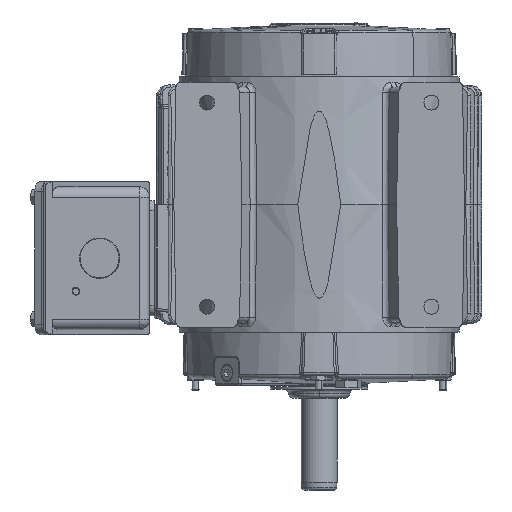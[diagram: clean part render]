
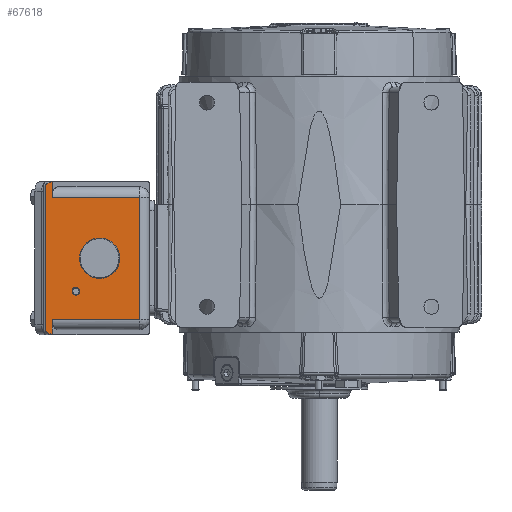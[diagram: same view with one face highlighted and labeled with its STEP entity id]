
A CAD part, front view. The second image highlights one B-rep face of the part: STEP entity #67618.
In plain terms, the highlighted planar face has unit normal (0, -1, 0).
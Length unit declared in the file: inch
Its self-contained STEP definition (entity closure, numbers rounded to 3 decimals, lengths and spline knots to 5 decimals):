
#1989 = FACE_OUTER_BOUND ( 'NONE', #73003, .T. ) ;
#2476 = CARTESIAN_POINT ( 'NONE',  ( -5.865, -1.85388, -6.23288 ) ) ;
#3268 = AXIS2_PLACEMENT_3D ( 'NONE', #7163, #75110, #84970 ) ;
#3408 = CARTESIAN_POINT ( 'NONE',  ( -6.54459, -1.85388, -7.28678 ) ) ;
#4035 = DIRECTION ( 'NONE',  ( 0., -1., 0. ) ) ;
#4552 = VERTEX_POINT ( 'NONE', #58055 ) ;
#4694 = CARTESIAN_POINT ( 'NONE',  ( -4.4, -1.85388, -3.67288 ) ) ;
#7163 = CARTESIAN_POINT ( 'NONE',  ( -5.96, -1.85388, -6.23288 ) ) ;
#7860 = VERTEX_POINT ( 'NONE', #108354 ) ;
#7945 = EDGE_CURVE ( 'NONE', #49719, #55185, #82361, .T. ) ;
#9346 = ORIENTED_EDGE ( 'NONE', *, *, #28936, .T. ) ;
#9375 = PLANE ( 'NONE',  #35410 ) ;
#11904 = EDGE_CURVE ( 'NONE', #50488, #49719, #78286, .T. ) ;
#14749 =( BOUNDED_CURVE ( )  B_SPLINE_CURVE ( 3, ( #46942, #66827, #27372, #27781 ),
 .UNSPECIFIED., .F., .F. ) 
 B_SPLINE_CURVE_WITH_KNOTS ( ( 4, 4 ),
 ( 5.03268, 6.28319 ),
 .UNSPECIFIED. ) 
 CURVE ( )  GEOMETRIC_REPRESENTATION_ITEM ( )  RATIONAL_B_SPLINE_CURVE ( ( 1., 0.874, 0.874, 1. ) ) 
 REPRESENTATION_ITEM ( '' )  );
#14778 = DIRECTION ( 'NONE',  ( 0., 0., -1. ) ) ;
#16587 = VERTEX_POINT ( 'NONE', #38832 ) ;
#17211 = CARTESIAN_POINT ( 'NONE',  ( -5.96, -1.85388, -6.23288 ) ) ;
#18318 =( BOUNDED_CURVE ( )  B_SPLINE_CURVE ( 3, ( #99125, #108870, #80372, #3408 ),
 .UNSPECIFIED., .F., .F. ) 
 B_SPLINE_CURVE_WITH_KNOTS ( ( 4, 4 ),
 ( 0., 1.25051 ),
 .UNSPECIFIED. ) 
 CURVE ( )  GEOMETRIC_REPRESENTATION_ITEM ( )  RATIONAL_B_SPLINE_CURVE ( ( 1., 0.874, 0.874, 1. ) ) 
 REPRESENTATION_ITEM ( '' )  );
#18762 = FACE_BOUND ( 'NONE', #70262, .T. ) ;
#20700 = ORIENTED_EDGE ( 'NONE', *, *, #37056, .F. ) ;
#21185 = DIRECTION ( 'NONE',  ( 0., 0., 1. ) ) ;
#23316 = LINE ( 'NONE', #30068, #50740 ) ;
#24117 = CARTESIAN_POINT ( 'NONE',  ( -6.055, -1.85388, -6.23288 ) ) ;
#24407 = ORIENTED_EDGE ( 'NONE', *, *, #26063, .T. ) ;
#26063 = EDGE_CURVE ( 'NONE', #85828, #16587, #71389, .T. ) ;
#26268 = CARTESIAN_POINT ( 'NONE',  ( -4.4, -1.85388, -6.92288 ) ) ;
#27372 = CARTESIAN_POINT ( 'NONE',  ( -6.70903, -1.85388, -3.6093 ) ) ;
#27781 = CARTESIAN_POINT ( 'NONE',  ( -6.70903, -1.85388, -3.66288 ) ) ;
#28713 = VERTEX_POINT ( 'NONE', #122408 ) ;
#28747 = EDGE_CURVE ( 'NONE', #7860, #28713, #30534, .T. ) ;
#28936 = EDGE_CURVE ( 'NONE', #29719, #4552, #68519, .T. ) ;
#29299 = DIRECTION ( 'NONE',  ( 0., 1., 0. ) ) ;
#29589 = LINE ( 'NONE', #4694, #47909 ) ;
#29719 = VERTEX_POINT ( 'NONE', #113989 ) ;
#30068 = CARTESIAN_POINT ( 'NONE',  ( -6.54459, -1.85388, -3.66288 ) ) ;
#30132 = CIRCLE ( 'NONE', #3268, 0.095 ) ;
#30534 = CIRCLE ( 'NONE', #62539, 0.49444 ) ;
#31658 = DIRECTION ( 'NONE',  ( 1., 0., 0. ) ) ;
#34196 = CARTESIAN_POINT ( 'NONE',  ( -6.54459, -1.85388, -6.92288 ) ) ;
#34767 = DIRECTION ( 'NONE',  ( 1., 0., 0. ) ) ;
#35410 = AXIS2_PLACEMENT_3D ( 'NONE', #87157, #29299, #39100 ) ;
#37056 = EDGE_CURVE ( 'NONE', #63030, #47311, #102806, .T. ) ;
#38832 = CARTESIAN_POINT ( 'NONE',  ( -4.4, -1.85388, -6.92288 ) ) ;
#39100 = DIRECTION ( 'NONE',  ( -1., 0., 0. ) ) ;
#45621 = VECTOR ( 'NONE', #34767, 39.37008 ) ;
#46056 = EDGE_CURVE ( 'NONE', #46813, #85828, #23316, .T. ) ;
#46813 = VERTEX_POINT ( 'NONE', #99107 ) ;
#46942 = CARTESIAN_POINT ( 'NONE',  ( -6.54459, -1.85388, -3.54899 ) ) ;
#47311 = VERTEX_POINT ( 'NONE', #24117 ) ;
#47909 = VECTOR ( 'NONE', #110570, 39.37008 ) ;
#49719 = VERTEX_POINT ( 'NONE', #66600 ) ;
#50488 = VERTEX_POINT ( 'NONE', #126015 ) ;
#50740 = VECTOR ( 'NONE', #21185, 39.37008 ) ;
#52060 = CARTESIAN_POINT ( 'NONE',  ( -5.38, -1.85388, -5.42288 ) ) ;
#54617 = ORIENTED_EDGE ( 'NONE', *, *, #46056, .T. ) ;
#54805 = AXIS2_PLACEMENT_3D ( 'NONE', #52060, #4035, #31658 ) ;
#55185 = VERTEX_POINT ( 'NONE', #61284 ) ;
#58055 = CARTESIAN_POINT ( 'NONE',  ( -6.70903, -1.85388, -7.17288 ) ) ;
#58089 = CARTESIAN_POINT ( 'NONE',  ( -6.54459, -1.85388, -3.66288 ) ) ;
#58568 = EDGE_CURVE ( 'NONE', #4552, #46813, #18318, .T. ) ;
#61284 = CARTESIAN_POINT ( 'NONE',  ( -6.54459, -1.85388, -3.54899 ) ) ;
#62539 = AXIS2_PLACEMENT_3D ( 'NONE', #85466, #84199, #95212 ) ;
#63030 = VERTEX_POINT ( 'NONE', #2476 ) ;
#66600 = CARTESIAN_POINT ( 'NONE',  ( -6.54459, -1.85388, -3.92288 ) ) ;
#66827 = CARTESIAN_POINT ( 'NONE',  ( -6.6463, -1.85388, -3.56586 ) ) ;
#67038 = ORIENTED_EDGE ( 'NONE', *, *, #11904, .T. ) ;
#67618 = ADVANCED_FACE ( 'NONE', ( #102432, #18762, #1989 ), #9375, .F. ) ;
#68519 = LINE ( 'NONE', #92132, #76151 ) ;
#68591 = VECTOR ( 'NONE', #116759, 39.37008 ) ;
#70262 = EDGE_LOOP ( 'NONE', ( #92113, #114102 ) ) ;
#70742 = ORIENTED_EDGE ( 'NONE', *, *, #91692, .T. ) ;
#71389 = LINE ( 'NONE', #26268, #45621 ) ;
#73003 = EDGE_LOOP ( 'NONE', ( #108469, #67038, #110979, #70742, #9346, #75100, #54617, #24407 ) ) ;
#73371 = EDGE_CURVE ( 'NONE', #47311, #63030, #30132, .T. ) ;
#75100 = ORIENTED_EDGE ( 'NONE', *, *, #58568, .T. ) ;
#75110 = DIRECTION ( 'NONE',  ( 0., -1., 0. ) ) ;
#75116 = VECTOR ( 'NONE', #93210, 39.37008 ) ;
#76151 = VECTOR ( 'NONE', #14778, 39.37008 ) ;
#77090 = ORIENTED_EDGE ( 'NONE', *, *, #73371, .F. ) ;
#78286 = LINE ( 'NONE', #122516, #75116 ) ;
#80372 = CARTESIAN_POINT ( 'NONE',  ( -6.6463, -1.85388, -7.26991 ) ) ;
#82361 = LINE ( 'NONE', #58089, #68591 ) ;
#84199 = DIRECTION ( 'NONE',  ( 0., -1., 0. ) ) ;
#84960 = EDGE_LOOP ( 'NONE', ( #20700, #77090 ) ) ;
#84970 = DIRECTION ( 'NONE',  ( 1., 0., 0. ) ) ;
#85466 = CARTESIAN_POINT ( 'NONE',  ( -5.38, -1.85388, -5.42288 ) ) ;
#85828 = VERTEX_POINT ( 'NONE', #34196 ) ;
#87157 = CARTESIAN_POINT ( 'NONE',  ( -4.4, -1.85388, -3.67288 ) ) ;
#87753 = AXIS2_PLACEMENT_3D ( 'NONE', #17211, #113309, #114176 ) ;
#89972 = EDGE_CURVE ( 'NONE', #50488, #16587, #29589, .T. ) ;
#91692 = EDGE_CURVE ( 'NONE', #55185, #29719, #14749, .T. ) ;
#92113 = ORIENTED_EDGE ( 'NONE', *, *, #28747, .F. ) ;
#92132 = CARTESIAN_POINT ( 'NONE',  ( -6.70903, -1.85388, -7.17288 ) ) ;
#93210 = DIRECTION ( 'NONE',  ( -1., 0., 0. ) ) ;
#95051 = CIRCLE ( 'NONE', #54805, 0.49444 ) ;
#95212 = DIRECTION ( 'NONE',  ( 1., 0., 0. ) ) ;
#99107 = CARTESIAN_POINT ( 'NONE',  ( -6.54459, -1.85388, -7.28678 ) ) ;
#99125 = CARTESIAN_POINT ( 'NONE',  ( -6.70903, -1.85388, -7.17288 ) ) ;
#102432 = FACE_BOUND ( 'NONE', #84960, .T. ) ;
#102806 = CIRCLE ( 'NONE', #87753, 0.095 ) ;
#108354 = CARTESIAN_POINT ( 'NONE',  ( -4.88557, -1.85388, -5.42288 ) ) ;
#108469 = ORIENTED_EDGE ( 'NONE', *, *, #89972, .F. ) ;
#108870 = CARTESIAN_POINT ( 'NONE',  ( -6.70903, -1.85388, -7.22647 ) ) ;
#110570 = DIRECTION ( 'NONE',  ( 0., 0., -1. ) ) ;
#110979 = ORIENTED_EDGE ( 'NONE', *, *, #7945, .T. ) ;
#113309 = DIRECTION ( 'NONE',  ( 0., -1., 0. ) ) ;
#113989 = CARTESIAN_POINT ( 'NONE',  ( -6.70903, -1.85388, -3.66288 ) ) ;
#114102 = ORIENTED_EDGE ( 'NONE', *, *, #116532, .F. ) ;
#114176 = DIRECTION ( 'NONE',  ( 1., 0., 0. ) ) ;
#116532 = EDGE_CURVE ( 'NONE', #28713, #7860, #95051, .T. ) ;
#116759 = DIRECTION ( 'NONE',  ( 0., 0., 1. ) ) ;
#122408 = CARTESIAN_POINT ( 'NONE',  ( -5.87444, -1.85388, -5.42288 ) ) ;
#122516 = CARTESIAN_POINT ( 'NONE',  ( -4.4, -1.85388, -3.92288 ) ) ;
#126015 = CARTESIAN_POINT ( 'NONE',  ( -4.4, -1.85388, -3.92288 ) ) ;
